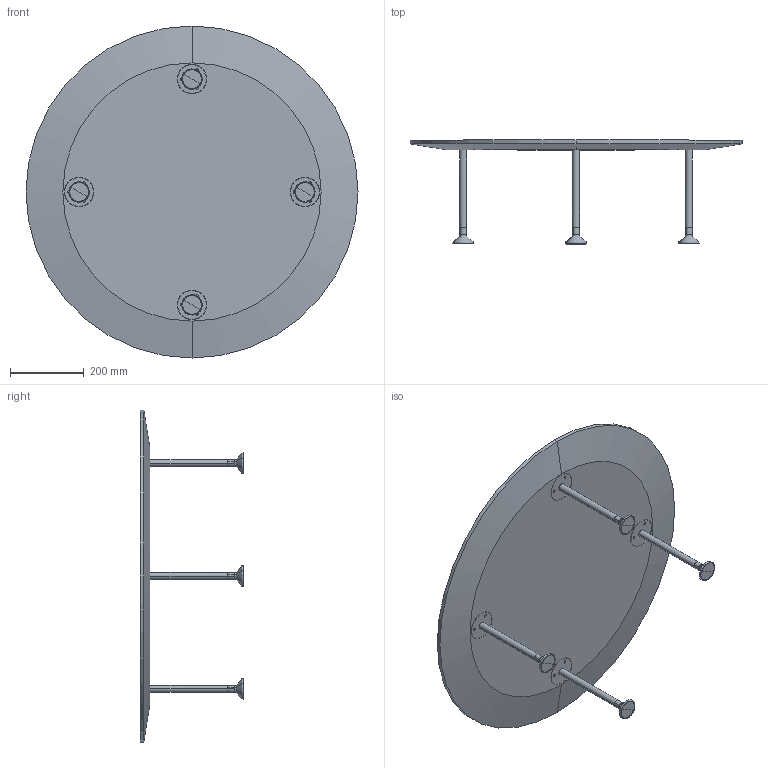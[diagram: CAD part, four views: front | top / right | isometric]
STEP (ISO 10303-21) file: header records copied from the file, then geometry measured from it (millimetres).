
FILE_DESCRIPTION (( 'STEP AP214' ), '1' );
FILE_NAME ('RoundØ900leg280.STEP', '2017-05-28T19:09:37', ( '' ), ( '' ), 'SwSTEP 2.0', 'SolidWorks 2016', '' );
FILE_SCHEMA (( 'AUTOMOTIVE_DESIGN' ));
Length unit declared in the file: millimetre
Products named in the file (3): RoundØ900leg280; ben280; Round ﾘ900
Assembly tree (5 placements, depth 2):
  RoundØ900leg280
    Round ﾘ900
    ben280  x4
Bounding box: 900 x 281 x 900 mm (x, y, z)
Volume: 14650794.5 mm3; surface area: 1485931.5 mm2
Topology: 13 solids, 13 shells, 130 faces, 306 edges, 190 vertices
Faces by surface type: cylinder 66, bspline 40, plane 22, cone 2
Entity records: 2504 total; most frequent: CARTESIAN_POINT 1380, DIRECTION 214, ORIENTED_EDGE 196, EDGE_CURVE 98, AXIS2_PLACEMENT_3D 94, VERTEX_POINT 64, EDGE_LOOP 60, CIRCLE 50
